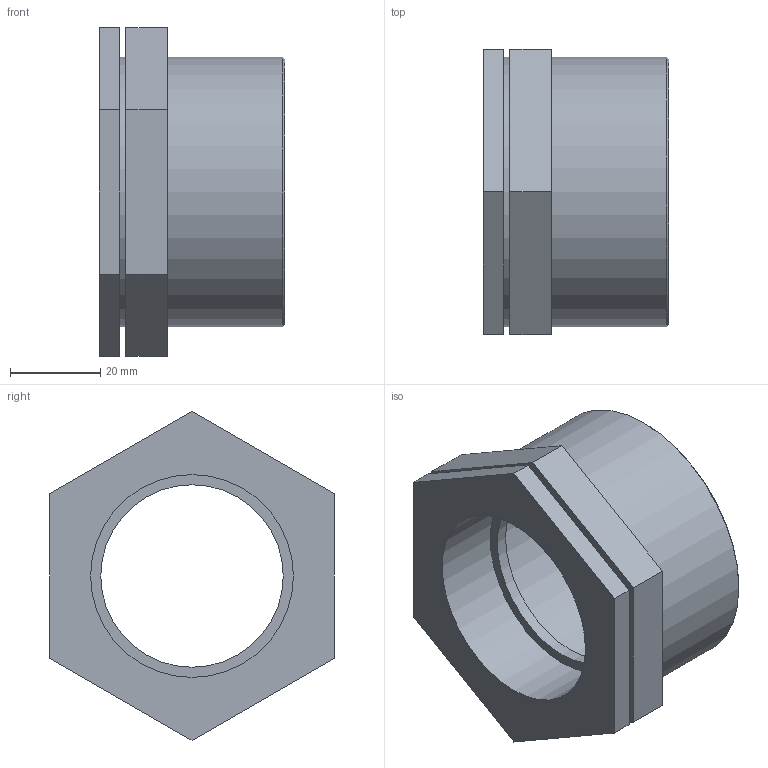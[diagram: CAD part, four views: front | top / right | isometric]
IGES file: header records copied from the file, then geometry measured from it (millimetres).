
Global section: file name: 050207020015_0502070200150A.ipt; native system: Autodesk Inventor 2015; preprocessor: unknown; author: KIM; date: 20170618.093141; units: millimetre
Bounding box: 41 x 63 x 72.75 mm (x, y, z)
Volume: 41729.1 mm3; surface area: 21021.7 mm2
Topology: 1 solids, 1 shells, 28 faces, 66 edges, 46 vertices
Faces by surface type: plane 20, revolution 4, cylinder 3, cone 1
Full cylindrical faces by diameter (mm): 49.33 x1, 59.614 x2
